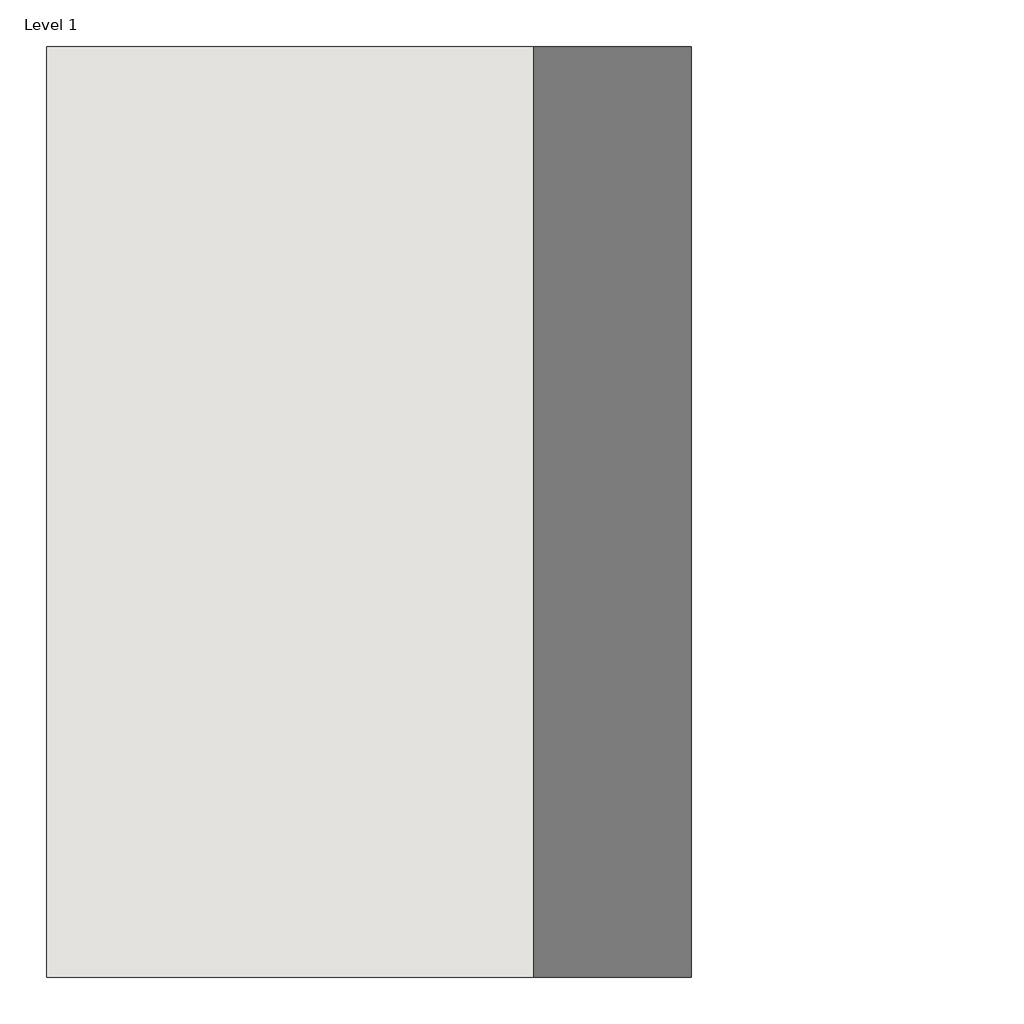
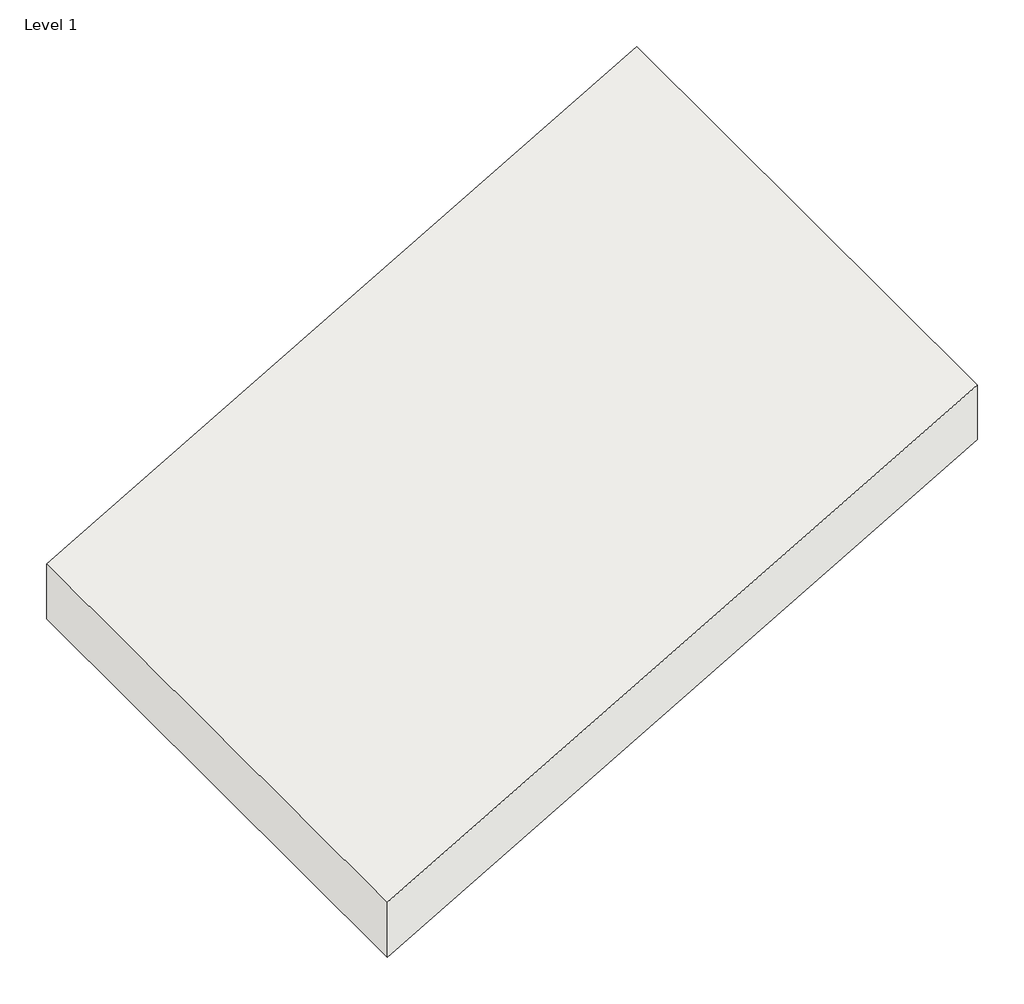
# One storey: 1 roof.
"""IFC4 building model written with IfcOpenShell, lengths in millimetres."""

from ifc_helpers import new_model, si_unit, frame, origin, place, context, project, spatial, polyline, outline, extrude, element, save

model = new_model("IFC4")

# Units and contexts
model_context = context("Model", 3, world=origin())
ifc_project = project(units=[si_unit("LENGTHUNIT", "METRE", prefix="MILLI")], contexts=[model_context])

# Site, building, storey
site = spatial("IfcSite", under=ifc_project)
building = spatial("IfcBuilding", under=site)
storey = spatial("IfcBuildingStorey", under=building, Name="Level 1", Elevation=0.0)

# Roof
placement = place(None, origin())
element("IfcRoof", 1, ObjectType="RIGIPS - 4.70.03 - REI 30 (55)", at=placement, inside=storey, context=model_context, shape_type="SweptSolid", body=[
    extrude(outline(polyline([(2026.4994449, 1500.0), (294.4486373, -1500.0), (0.0, -1500.0), (1732.0508076, 1500.0), (2026.4994449, 1500.0)])), frame((0.0, -1500.0, 0.0), z_axis=(0.0, 1.0, 0.0), x_axis=(0.0, 0.0, 1.0)), (0.0, 0.0, 1.0), 3000.0),
])

save(model, "model.ifc")
